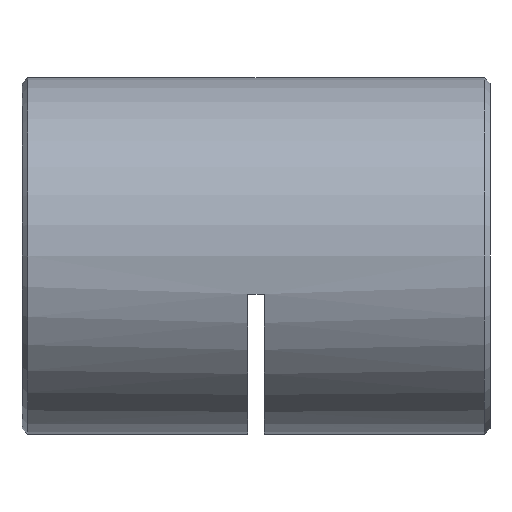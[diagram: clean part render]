
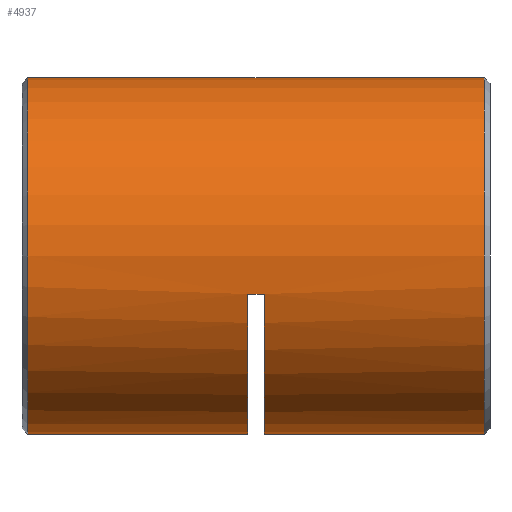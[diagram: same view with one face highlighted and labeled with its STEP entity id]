
A CAD part, left-side view. The second image highlights one B-rep face of the part: STEP entity #4937.
In plain terms, the highlighted cylindrical face has radius 16 mm (diameter 32 mm), a partial arc.
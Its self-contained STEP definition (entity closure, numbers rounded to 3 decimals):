
#88 = AXIS2_PLACEMENT_3D ( 'NONE', #1417, #1888, #2899 ) ;
#134 = VECTOR ( 'NONE', #1751, 1000. ) ;
#149 = VERTEX_POINT ( 'NONE', #5798 ) ;
#293 = LINE ( 'NONE', #5016, #1995 ) ;
#513 = CARTESIAN_POINT ( 'NONE',  ( 0., 42.5, 0. ) ) ;
#551 = ORIENTED_EDGE ( 'NONE', *, *, #2952, .T. ) ;
#750 = CIRCLE ( 'NONE', #2894, 16. ) ;
#928 = DIRECTION ( 'NONE',  ( 0., 0., -1. ) ) ;
#1245 = AXIS2_PLACEMENT_3D ( 'NONE', #5282, #6282, #3358 ) ;
#1317 = DIRECTION ( 'NONE',  ( 0., 0., 1. ) ) ;
#1340 = CARTESIAN_POINT ( 'NONE',  ( 0., 22., -16. ) ) ;
#1416 = CIRCLE ( 'NONE', #4040, 16. ) ;
#1417 = CARTESIAN_POINT ( 'NONE',  ( 0., 20.5, 0. ) ) ;
#1450 = VERTEX_POINT ( 'NONE', #4651 ) ;
#1643 = CIRCLE ( 'NONE', #1245, 16. ) ;
#1751 = DIRECTION ( 'NONE',  ( 0., -1., 0. ) ) ;
#1791 = VERTEX_POINT ( 'NONE', #3175 ) ;
#1802 = CYLINDRICAL_SURFACE ( 'NONE', #2688, 16. ) ;
#1888 = DIRECTION ( 'NONE',  ( 0., -1., 0. ) ) ;
#1897 = CARTESIAN_POINT ( 'NONE',  ( 0., 20.5, -16. ) ) ;
#1986 = VECTOR ( 'NONE', #2300, 1000. ) ;
#1995 = VECTOR ( 'NONE', #4542, 1000. ) ;
#2006 = CARTESIAN_POINT ( 'NONE',  ( 0., 42.5, -16. ) ) ;
#2078 = EDGE_CURVE ( 'NONE', #6336, #4635, #293, .T. ) ;
#2300 = DIRECTION ( 'NONE',  ( 0., -1., 0. ) ) ;
#2370 = EDGE_CURVE ( 'NONE', #3942, #5626, #5761, .T. ) ;
#2406 = DIRECTION ( 'NONE',  ( 0., 0., -1. ) ) ;
#2461 = DIRECTION ( 'NONE',  ( 0., -1., 0. ) ) ;
#2688 = AXIS2_PLACEMENT_3D ( 'NONE', #513, #2461, #928 ) ;
#2693 = EDGE_LOOP ( 'NONE', ( #2995, #5189, #3128, #5576, #3211, #5670, #4868, #551 ) ) ;
#2762 = DIRECTION ( 'NONE',  ( 0., 1., 0. ) ) ;
#2894 = AXIS2_PLACEMENT_3D ( 'NONE', #3284, #2762, #1317 ) ;
#2899 = DIRECTION ( 'NONE',  ( 0., 0., -1. ) ) ;
#2941 = DIRECTION ( 'NONE',  ( 0., -1., 0. ) ) ;
#2952 = EDGE_CURVE ( 'NONE', #1450, #4635, #750, .T. ) ;
#2955 = FACE_OUTER_BOUND ( 'NONE', #2693, .T. ) ;
#2960 = EDGE_CURVE ( 'NONE', #149, #1791, #3053, .T. ) ;
#2995 = ORIENTED_EDGE ( 'NONE', *, *, #2078, .F. ) ;
#3053 = LINE ( 'NONE', #3781, #134 ) ;
#3128 = ORIENTED_EDGE ( 'NONE', *, *, #2370, .T. ) ;
#3175 = CARTESIAN_POINT ( 'NONE',  ( -15.632, 20.5, -3.413 ) ) ;
#3211 = ORIENTED_EDGE ( 'NONE', *, *, #2960, .T. ) ;
#3284 = CARTESIAN_POINT ( 'NONE',  ( 0., 0.75, 0. ) ) ;
#3348 = CARTESIAN_POINT ( 'NONE',  ( 0., 0.75, 16. ) ) ;
#3358 = DIRECTION ( 'NONE',  ( 0., 0., -1. ) ) ;
#3781 = CARTESIAN_POINT ( 'NONE',  ( -15.632, 21.25, -3.413 ) ) ;
#3888 = CARTESIAN_POINT ( 'NONE',  ( 0., 41.75, -16. ) ) ;
#3942 = VERTEX_POINT ( 'NONE', #3888 ) ;
#4040 = AXIS2_PLACEMENT_3D ( 'NONE', #5345, #4810, #2406 ) ;
#4343 = LINE ( 'NONE', #2006, #4963 ) ;
#4542 = DIRECTION ( 'NONE',  ( 0., -1., 0. ) ) ;
#4575 = EDGE_CURVE ( 'NONE', #1791, #5637, #5447, .T. ) ;
#4635 = VERTEX_POINT ( 'NONE', #3348 ) ;
#4651 = CARTESIAN_POINT ( 'NONE',  ( 0., 0.75, -16. ) ) ;
#4726 = EDGE_CURVE ( 'NONE', #5637, #1450, #4343, .T. ) ;
#4810 = DIRECTION ( 'NONE',  ( 0., -1., 0. ) ) ;
#4868 = ORIENTED_EDGE ( 'NONE', *, *, #4726, .T. ) ;
#4937 = ADVANCED_FACE ( 'NONE', ( #2955 ), #1802, .T. ) ;
#4963 = VECTOR ( 'NONE', #2941, 1000. ) ;
#5016 = CARTESIAN_POINT ( 'NONE',  ( 0., 42.5, 16. ) ) ;
#5189 = ORIENTED_EDGE ( 'NONE', *, *, #5461, .T. ) ;
#5282 = CARTESIAN_POINT ( 'NONE',  ( 0., 22., 0. ) ) ;
#5345 = CARTESIAN_POINT ( 'NONE',  ( 0., 41.75, 0. ) ) ;
#5447 = CIRCLE ( 'NONE', #88, 16. ) ;
#5461 = EDGE_CURVE ( 'NONE', #6336, #3942, #1416, .T. ) ;
#5576 = ORIENTED_EDGE ( 'NONE', *, *, #6062, .F. ) ;
#5626 = VERTEX_POINT ( 'NONE', #1340 ) ;
#5637 = VERTEX_POINT ( 'NONE', #1897 ) ;
#5670 = ORIENTED_EDGE ( 'NONE', *, *, #4575, .T. ) ;
#5717 = CARTESIAN_POINT ( 'NONE',  ( 0., 41.75, 16. ) ) ;
#5761 = LINE ( 'NONE', #5814, #1986 ) ;
#5798 = CARTESIAN_POINT ( 'NONE',  ( -15.632, 22., -3.413 ) ) ;
#5814 = CARTESIAN_POINT ( 'NONE',  ( 0., 42.5, -16. ) ) ;
#6062 = EDGE_CURVE ( 'NONE', #149, #5626, #1643, .T. ) ;
#6282 = DIRECTION ( 'NONE',  ( 0., -1., 0. ) ) ;
#6336 = VERTEX_POINT ( 'NONE', #5717 ) ;
